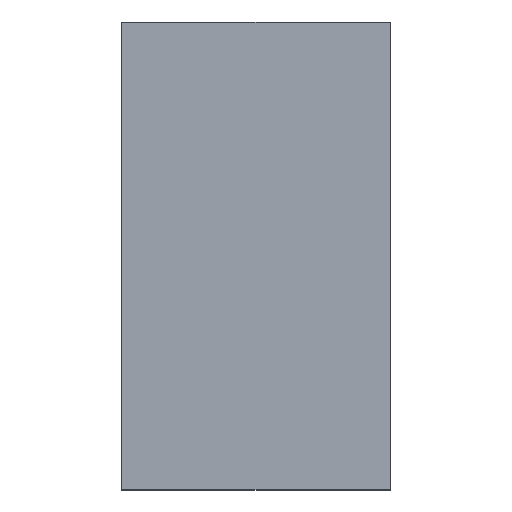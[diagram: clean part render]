
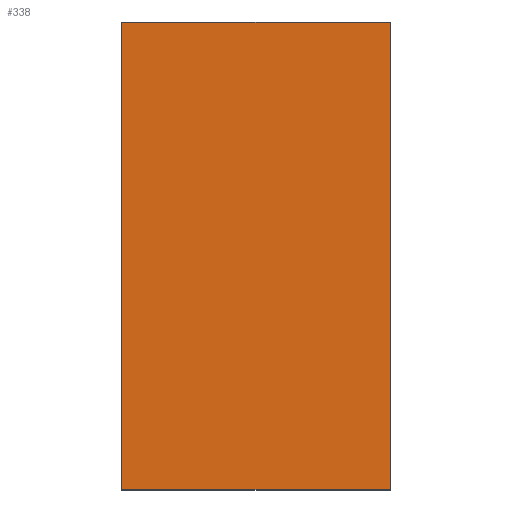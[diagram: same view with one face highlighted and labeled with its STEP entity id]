
A CAD part, top view. The second image highlights one B-rep face of the part: STEP entity #338.
In plain terms, the highlighted planar face has unit normal (0, 0, 1).
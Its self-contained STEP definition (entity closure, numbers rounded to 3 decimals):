
#24 = VERTEX_POINT('',#25);
#25 = CARTESIAN_POINT('',(0.5,-27.,-2.72));
#32 = PLANE('',#33);
#33 = AXIS2_PLACEMENT_3D('',#34,#35,#36);
#34 = CARTESIAN_POINT('',(0.5,-27.,-6.92));
#35 = DIRECTION('',(1.,0.,0.));
#36 = DIRECTION('',(0.,0.,1.));
#44 = PLANE('',#45);
#45 = AXIS2_PLACEMENT_3D('',#46,#47,#48);
#46 = CARTESIAN_POINT('',(0.5,-27.,-6.92));
#47 = DIRECTION('',(0.,1.,0.));
#48 = DIRECTION('',(0.,-0.,1.));
#85 = VERTEX_POINT('',#86);
#86 = CARTESIAN_POINT('',(0.5,0.,-2.72));
#100 = PLANE('',#101);
#101 = AXIS2_PLACEMENT_3D('',#102,#103,#104);
#102 = CARTESIAN_POINT('',(0.5,0.,-6.92));
#103 = DIRECTION('',(0.,1.,0.));
#104 = DIRECTION('',(0.,-0.,1.));
#112 = EDGE_CURVE('',#24,#85,#113,.T.);
#113 = SURFACE_CURVE('',#114,(#118,#125),.PCURVE_S1.);
#114 = LINE('',#115,#116);
#115 = CARTESIAN_POINT('',(0.5,-27.,-2.72));
#116 = VECTOR('',#117,1.);
#117 = DIRECTION('',(0.,1.,0.));
#118 = PCURVE('',#32,#119);
#119 = DEFINITIONAL_REPRESENTATION('',(#120),#124);
#120 = LINE('',#121,#122);
#121 = CARTESIAN_POINT('',(4.2,0.));
#122 = VECTOR('',#123,1.);
#123 = DIRECTION('',(0.,-1.));
#124 = ( GEOMETRIC_REPRESENTATION_CONTEXT(2) 
PARAMETRIC_REPRESENTATION_CONTEXT() REPRESENTATION_CONTEXT('2D SPACE',''
  ) );
#125 = PCURVE('',#126,#131);
#126 = PLANE('',#127);
#127 = AXIS2_PLACEMENT_3D('',#128,#129,#130);
#128 = CARTESIAN_POINT('',(0.5,-27.,-2.72));
#129 = DIRECTION('',(0.,0.,1.));
#130 = DIRECTION('',(1.,0.,-0.));
#131 = DEFINITIONAL_REPRESENTATION('',(#132),#136);
#132 = LINE('',#133,#134);
#133 = CARTESIAN_POINT('',(0.,0.));
#134 = VECTOR('',#135,1.);
#135 = DIRECTION('',(0.,1.));
#136 = ( GEOMETRIC_REPRESENTATION_CONTEXT(2) 
PARAMETRIC_REPRESENTATION_CONTEXT() REPRESENTATION_CONTEXT('2D SPACE',''
  ) );
#144 = VERTEX_POINT('',#145);
#145 = CARTESIAN_POINT('',(16.,-27.,-2.72));
#152 = PLANE('',#153);
#153 = AXIS2_PLACEMENT_3D('',#154,#155,#156);
#154 = CARTESIAN_POINT('',(16.,-27.,-6.92));
#155 = DIRECTION('',(1.,0.,0.));
#156 = DIRECTION('',(0.,0.,1.));
#195 = VERTEX_POINT('',#196);
#196 = CARTESIAN_POINT('',(16.,0.,-2.72));
#217 = EDGE_CURVE('',#144,#195,#218,.T.);
#218 = SURFACE_CURVE('',#219,(#223,#230),.PCURVE_S1.);
#219 = LINE('',#220,#221);
#220 = CARTESIAN_POINT('',(16.,-27.,-2.72));
#221 = VECTOR('',#222,1.);
#222 = DIRECTION('',(0.,1.,0.));
#223 = PCURVE('',#152,#224);
#224 = DEFINITIONAL_REPRESENTATION('',(#225),#229);
#225 = LINE('',#226,#227);
#226 = CARTESIAN_POINT('',(4.2,0.));
#227 = VECTOR('',#228,1.);
#228 = DIRECTION('',(0.,-1.));
#229 = ( GEOMETRIC_REPRESENTATION_CONTEXT(2) 
PARAMETRIC_REPRESENTATION_CONTEXT() REPRESENTATION_CONTEXT('2D SPACE',''
  ) );
#230 = PCURVE('',#126,#231);
#231 = DEFINITIONAL_REPRESENTATION('',(#232),#236);
#232 = LINE('',#233,#234);
#233 = CARTESIAN_POINT('',(15.5,0.));
#234 = VECTOR('',#235,1.);
#235 = DIRECTION('',(0.,1.));
#236 = ( GEOMETRIC_REPRESENTATION_CONTEXT(2) 
PARAMETRIC_REPRESENTATION_CONTEXT() REPRESENTATION_CONTEXT('2D SPACE',''
  ) );
#263 = EDGE_CURVE('',#24,#144,#264,.T.);
#264 = SURFACE_CURVE('',#265,(#269,#276),.PCURVE_S1.);
#265 = LINE('',#266,#267);
#266 = CARTESIAN_POINT('',(0.5,-27.,-2.72));
#267 = VECTOR('',#268,1.);
#268 = DIRECTION('',(1.,0.,0.));
#269 = PCURVE('',#44,#270);
#270 = DEFINITIONAL_REPRESENTATION('',(#271),#275);
#271 = LINE('',#272,#273);
#272 = CARTESIAN_POINT('',(4.2,0.));
#273 = VECTOR('',#274,1.);
#274 = DIRECTION('',(0.,1.));
#275 = ( GEOMETRIC_REPRESENTATION_CONTEXT(2) 
PARAMETRIC_REPRESENTATION_CONTEXT() REPRESENTATION_CONTEXT('2D SPACE',''
  ) );
#276 = PCURVE('',#126,#277);
#277 = DEFINITIONAL_REPRESENTATION('',(#278),#282);
#278 = LINE('',#279,#280);
#279 = CARTESIAN_POINT('',(0.,0.));
#280 = VECTOR('',#281,1.);
#281 = DIRECTION('',(1.,0.));
#282 = ( GEOMETRIC_REPRESENTATION_CONTEXT(2) 
PARAMETRIC_REPRESENTATION_CONTEXT() REPRESENTATION_CONTEXT('2D SPACE',''
  ) );
#310 = EDGE_CURVE('',#85,#195,#311,.T.);
#311 = SURFACE_CURVE('',#312,(#316,#323),.PCURVE_S1.);
#312 = LINE('',#313,#314);
#313 = CARTESIAN_POINT('',(0.5,0.,-2.72));
#314 = VECTOR('',#315,1.);
#315 = DIRECTION('',(1.,0.,0.));
#316 = PCURVE('',#100,#317);
#317 = DEFINITIONAL_REPRESENTATION('',(#318),#322);
#318 = LINE('',#319,#320);
#319 = CARTESIAN_POINT('',(4.2,0.));
#320 = VECTOR('',#321,1.);
#321 = DIRECTION('',(0.,1.));
#322 = ( GEOMETRIC_REPRESENTATION_CONTEXT(2) 
PARAMETRIC_REPRESENTATION_CONTEXT() REPRESENTATION_CONTEXT('2D SPACE',''
  ) );
#323 = PCURVE('',#126,#324);
#324 = DEFINITIONAL_REPRESENTATION('',(#325),#329);
#325 = LINE('',#326,#327);
#326 = CARTESIAN_POINT('',(0.,27.));
#327 = VECTOR('',#328,1.);
#328 = DIRECTION('',(1.,0.));
#329 = ( GEOMETRIC_REPRESENTATION_CONTEXT(2) 
PARAMETRIC_REPRESENTATION_CONTEXT() REPRESENTATION_CONTEXT('2D SPACE',''
  ) );
#338 = ADVANCED_FACE('',(#339),#126,.T.);
#339 = FACE_BOUND('',#340,.T.);
#340 = EDGE_LOOP('',(#341,#342,#343,#344));
#341 = ORIENTED_EDGE('',*,*,#112,.F.);
#342 = ORIENTED_EDGE('',*,*,#263,.T.);
#343 = ORIENTED_EDGE('',*,*,#217,.T.);
#344 = ORIENTED_EDGE('',*,*,#310,.F.);
